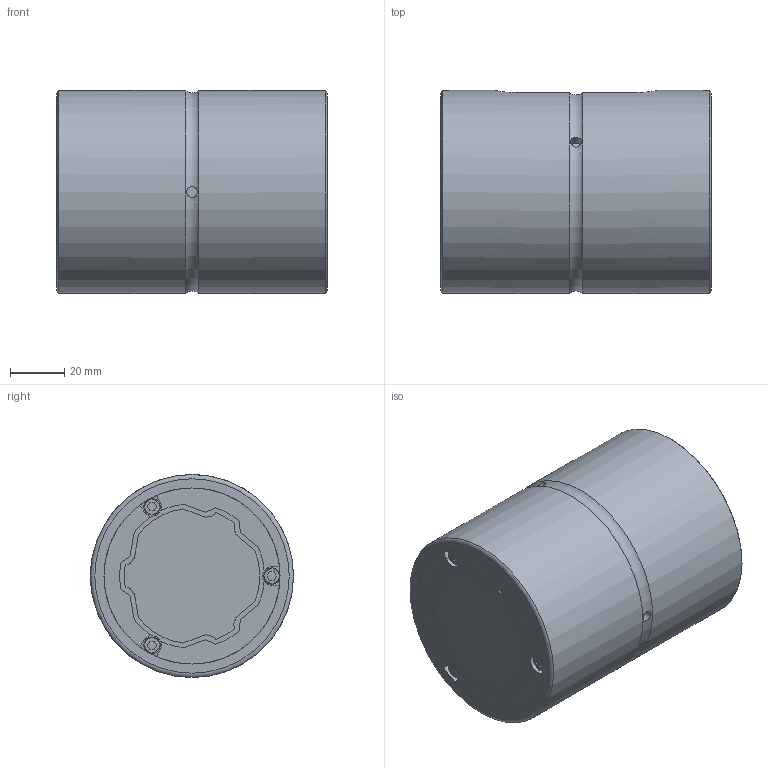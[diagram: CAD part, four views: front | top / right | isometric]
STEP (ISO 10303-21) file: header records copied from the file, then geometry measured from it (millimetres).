
FILE_DESCRIPTION(/* description */ ('STEP AP203'),/* implementation_level */ '2;1');
FILE_NAME(/* name */ 'SLS501100(00)',/* time_stamp */ '2024-05-23T11:46:57+02:00',/* author */ ('License CC BY-ND 4.0'),/* organization */ ('CADENAS'),/* preprocessor_version */ 'ST-DEVELOPER v19.3',/* originating_system */ 'PARTsolutions',/* authorisation */ ' ');
FILE_SCHEMA (('CONFIG_CONTROL_DESIGN'));
Length unit declared in the file: millimetre
Products named in the file (3): SLS501100(00); 50(X100); 50X cylinder
Assembly tree (2 placements, depth 2):
  SLS501100(00)
    50(X100)
    50X cylinder
Bounding box: 100 x 75 x 75 mm (x, y, z)
Volume: 436052.1 mm3; surface area: 65834.6 mm2
Topology: 2 solids, 2 shells, 242 faces, 676 edges, 451 vertices
Faces by surface type: plane 128, cylinder 105, torus 9
Full cylindrical faces by diameter (mm): 4 x3, 65 x2, 75 x2
Entity records: 7838 total; most frequent: CARTESIAN_POINT 1455, DIRECTION 1358, ORIENTED_EDGE 1300, EDGE_CURVE 650, AXIS2_PLACEMENT_3D 476, VERTEX_POINT 440, LINE 406, VECTOR 406
